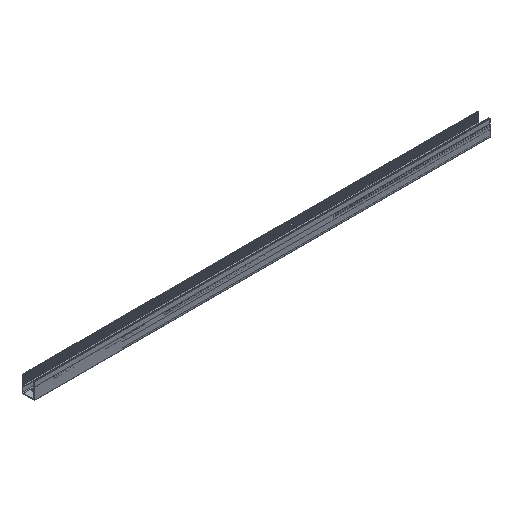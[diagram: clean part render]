
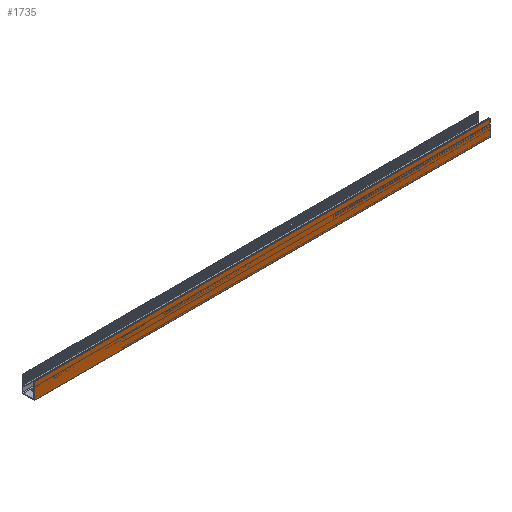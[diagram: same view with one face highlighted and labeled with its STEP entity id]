
A CAD part, isometric view. The second image highlights one B-rep face of the part: STEP entity #1735.
In plain terms, the highlighted planar face has unit normal (0, -1, 0).
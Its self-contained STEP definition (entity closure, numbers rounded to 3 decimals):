
#133=FACE_OUTER_BOUND('',#227,.T.);
#227=EDGE_LOOP('',(#1241,#1242,#1243,#1244));
#353=LINE('',#2516,#555);
#354=LINE('',#2519,#556);
#355=LINE('',#2521,#557);
#356=LINE('',#2522,#558);
#555=VECTOR('',#2072,10.);
#556=VECTOR('',#2075,10.);
#557=VECTOR('',#2076,10.);
#558=VECTOR('',#2077,10.);
#751=VERTEX_POINT('',#2512);
#752=VERTEX_POINT('',#2514);
#753=VERTEX_POINT('',#2518);
#754=VERTEX_POINT('',#2520);
#949=EDGE_CURVE('',#751,#752,#353,.T.);
#950=EDGE_CURVE('',#753,#751,#354,.T.);
#951=EDGE_CURVE('',#754,#752,#355,.T.);
#952=EDGE_CURVE('',#753,#754,#356,.T.);
#1241=ORIENTED_EDGE('',*,*,#950,.T.);
#1242=ORIENTED_EDGE('',*,*,#949,.T.);
#1243=ORIENTED_EDGE('',*,*,#951,.F.);
#1244=ORIENTED_EDGE('',*,*,#952,.F.);
#1661=PLANE('',#1860);
#1735=ADVANCED_FACE('',(#133),#1661,.T.);
#1860=AXIS2_PLACEMENT_3D('',#2517,#2073,#2074);
#2072=DIRECTION('',(1.,0.,0.));
#2073=DIRECTION('center_axis',(0.,-1.,0.));
#2074=DIRECTION('ref_axis',(0.,0.,-1.));
#2075=DIRECTION('',(0.,0.,-1.));
#2076=DIRECTION('',(0.,0.,-1.));
#2077=DIRECTION('',(1.,0.,0.));
#2512=CARTESIAN_POINT('',(0.,-13.843,0.5));
#2514=CARTESIAN_POINT('',(1000.,-13.843,0.5));
#2516=CARTESIAN_POINT('',(0.,-13.843,0.5));
#2517=CARTESIAN_POINT('Origin',(0.,-13.843,35.879));
#2518=CARTESIAN_POINT('',(0.,-13.843,35.879));
#2519=CARTESIAN_POINT('',(0.,-13.843,35.879));
#2520=CARTESIAN_POINT('',(1000.,-13.843,35.879));
#2521=CARTESIAN_POINT('',(1000.,-13.843,35.879));
#2522=CARTESIAN_POINT('',(0.,-13.843,35.879));
